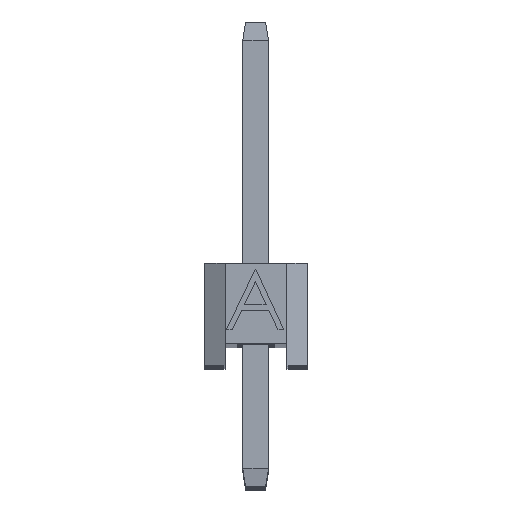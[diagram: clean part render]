
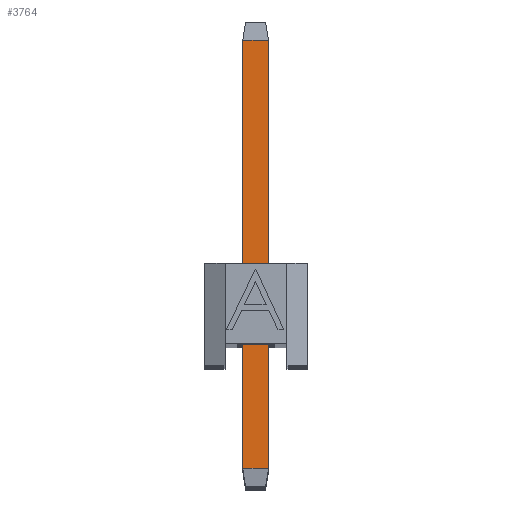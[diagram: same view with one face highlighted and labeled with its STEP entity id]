
A CAD part, top view. The second image highlights one B-rep face of the part: STEP entity #3764.
In plain terms, the highlighted planar face has unit normal (0, 0, 1).
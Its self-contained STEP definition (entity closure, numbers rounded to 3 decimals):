
#84 = VECTOR ( 'NONE', #12788, 1000. ) ;
#628 = VERTEX_POINT ( 'NONE', #9712 ) ;
#1326 = VERTEX_POINT ( 'NONE', #3983 ) ;
#1983 = DIRECTION ( 'NONE',  ( 0., 1., 0. ) ) ;
#2330 = EDGE_LOOP ( 'NONE', ( #11040, #4826, #8315, #10842 ) ) ;
#3319 = DIRECTION ( 'NONE',  ( 0., 1., 0. ) ) ;
#3764 = ADVANCED_FACE ( 'NONE', ( #6292 ), #8625, .F. ) ;
#3983 = CARTESIAN_POINT ( 'NONE',  ( -0.32, 11.09, 0.32 ) ) ;
#3997 = EDGE_CURVE ( 'NONE', #6482, #12908, #6660, .T. ) ;
#4104 = EDGE_CURVE ( 'NONE', #6482, #1326, #6994, .T. ) ;
#4710 = AXIS2_PLACEMENT_3D ( 'NONE', #10883, #6512, #5189 ) ;
#4826 = ORIENTED_EDGE ( 'NONE', *, *, #3997, .T. ) ;
#5189 = DIRECTION ( 'NONE',  ( -1., 0., 0. ) ) ;
#5399 = CARTESIAN_POINT ( 'NONE',  ( 0.32, 0.45, 0.32 ) ) ;
#6120 = VECTOR ( 'NONE', #9027, 1000. ) ;
#6292 = FACE_OUTER_BOUND ( 'NONE', #2330, .T. ) ;
#6482 = VERTEX_POINT ( 'NONE', #11618 ) ;
#6512 = DIRECTION ( 'NONE',  ( 0., 0., -1. ) ) ;
#6561 = CARTESIAN_POINT ( 'NONE',  ( 0.32, 0., 0.32 ) ) ;
#6660 = LINE ( 'NONE', #5399, #6120 ) ;
#6994 = LINE ( 'NONE', #12678, #10415 ) ;
#7095 = EDGE_CURVE ( 'NONE', #628, #1326, #13743, .T. ) ;
#8315 = ORIENTED_EDGE ( 'NONE', *, *, #9984, .T. ) ;
#8326 = LINE ( 'NONE', #6561, #11399 ) ;
#8625 = PLANE ( 'NONE',  #4710 ) ;
#9027 = DIRECTION ( 'NONE',  ( 1., 0., 0. ) ) ;
#9468 = CARTESIAN_POINT ( 'NONE',  ( -0.32, 11.09, 0.32 ) ) ;
#9712 = CARTESIAN_POINT ( 'NONE',  ( 0.32, 11.09, 0.32 ) ) ;
#9915 = CARTESIAN_POINT ( 'NONE',  ( 0.32, 0.45, 0.32 ) ) ;
#9984 = EDGE_CURVE ( 'NONE', #12908, #628, #8326, .T. ) ;
#10415 = VECTOR ( 'NONE', #3319, 1000. ) ;
#10842 = ORIENTED_EDGE ( 'NONE', *, *, #7095, .T. ) ;
#10883 = CARTESIAN_POINT ( 'NONE',  ( 0.32, 11.54, 0.32 ) ) ;
#11040 = ORIENTED_EDGE ( 'NONE', *, *, #4104, .F. ) ;
#11399 = VECTOR ( 'NONE', #1983, 1000. ) ;
#11618 = CARTESIAN_POINT ( 'NONE',  ( -0.32, 0.45, 0.32 ) ) ;
#12678 = CARTESIAN_POINT ( 'NONE',  ( -0.32, 0., 0.32 ) ) ;
#12788 = DIRECTION ( 'NONE',  ( -1., 0., 0. ) ) ;
#12908 = VERTEX_POINT ( 'NONE', #9915 ) ;
#13743 = LINE ( 'NONE', #9468, #84 ) ;
